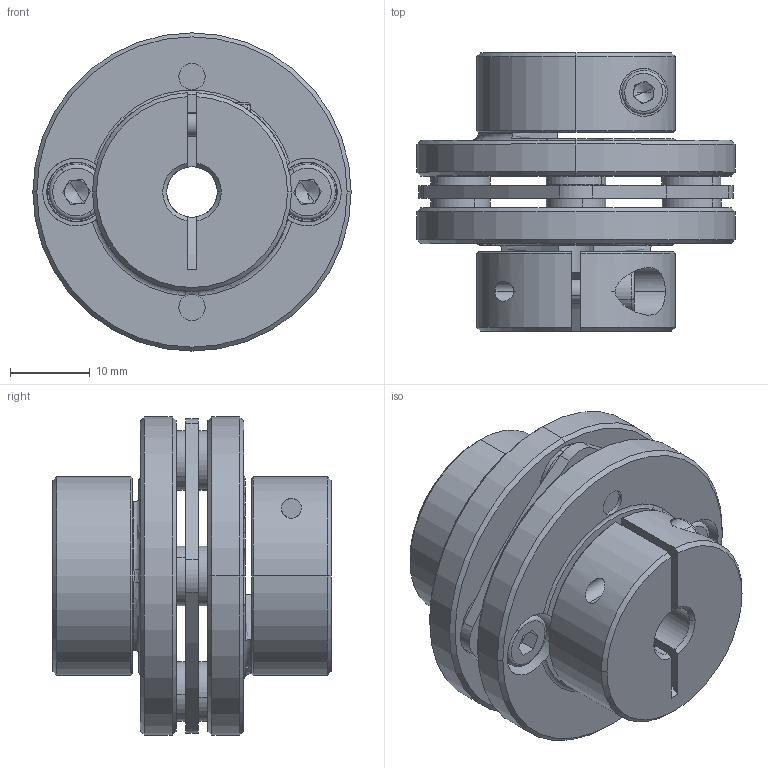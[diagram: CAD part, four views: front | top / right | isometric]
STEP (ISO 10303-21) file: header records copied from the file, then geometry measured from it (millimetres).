
FILE_DESCRIPTION (( 'STEP AP203' ), '1' );
FILE_NAME ('LE1-B-D40L35-6.35-6.35.STEP', '2021-11-01T02:05:01', ( '' ), ( '' ), 'SwSTEP 2.0', 'SolidWorks 2018', '' );
FILE_SCHEMA (( 'CONFIG_CONTROL_DESIGN' ));
Length unit declared in the file: millimetre
Products named in the file (1): LE1-B-D40L35-6.35-6.35
Bounding box: 40 x 35 x 40 mm (x, y, z)
Volume: 20947 mm3; surface area: 12829.1 mm2
Topology: 1 solids, 13 shells, 423 faces, 1021 edges, 630 vertices
Faces by surface type: cylinder 149, plane 140, cone 114, torus 18, bspline 2
Entity records: 12770 total; most frequent: CARTESIAN_POINT 2463, DIRECTION 2335, ORIENTED_EDGE 2018, EDGE_CURVE 1009, AXIS2_PLACEMENT_3D 952, VERTEX_POINT 630, CIRCLE 530, EDGE_LOOP 491
